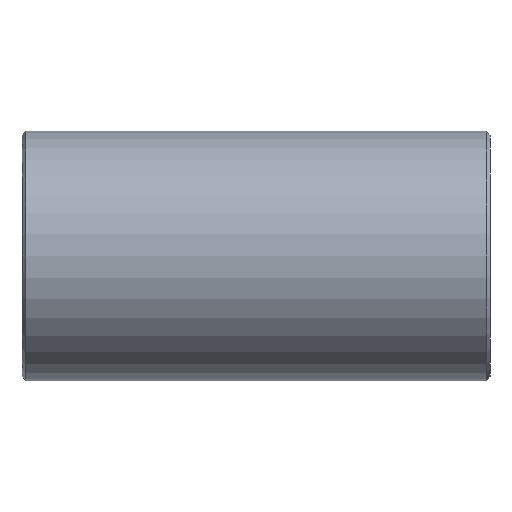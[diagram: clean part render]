
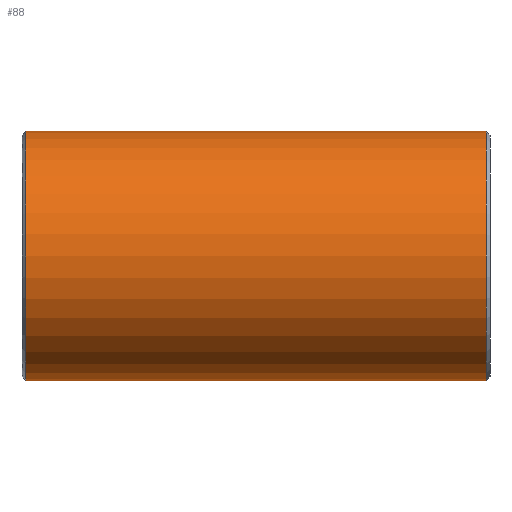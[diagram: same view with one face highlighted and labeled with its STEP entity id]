
A CAD part, left-side view. The second image highlights one B-rep face of the part: STEP entity #88.
In plain terms, the highlighted cylindrical face has radius 8 mm (diameter 16 mm), a full revolution.
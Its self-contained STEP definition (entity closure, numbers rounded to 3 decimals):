
#19=CYLINDRICAL_SURFACE('',#110,8.);
#22=FACE_OUTER_BOUND('',#28,.T.);
#28=EDGE_LOOP('',(#69,#70,#71,#72));
#36=LINE('',#159,#40);
#40=VECTOR('',#132,8.);
#43=CIRCLE('',#108,8.);
#45=CIRCLE('',#111,8.);
#49=VERTEX_POINT('',#151);
#51=VERTEX_POINT('',#157);
#55=EDGE_CURVE('',#49,#49,#43,.T.);
#58=EDGE_CURVE('',#51,#51,#45,.T.);
#59=EDGE_CURVE('',#51,#49,#36,.T.);
#69=ORIENTED_EDGE('',*,*,#58,.F.);
#70=ORIENTED_EDGE('',*,*,#59,.T.);
#71=ORIENTED_EDGE('',*,*,#55,.F.);
#72=ORIENTED_EDGE('',*,*,#59,.F.);
#88=ADVANCED_FACE('',(#22),#19,.T.);
#108=AXIS2_PLACEMENT_3D('',#152,#123,#124);
#110=AXIS2_PLACEMENT_3D('',#156,#128,#129);
#111=AXIS2_PLACEMENT_3D('',#158,#130,#131);
#123=DIRECTION('center_axis',(0.,-1.,0.));
#124=DIRECTION('ref_axis',(1.,0.,0.));
#128=DIRECTION('center_axis',(0.,1.,0.));
#129=DIRECTION('ref_axis',(1.,0.,0.));
#130=DIRECTION('center_axis',(0.,1.,0.));
#131=DIRECTION('ref_axis',(1.,0.,0.));
#132=DIRECTION('',(0.,-1.,0.));
#151=CARTESIAN_POINT('',(-8.,0.25,0.));
#152=CARTESIAN_POINT('Origin',(0.,0.25,0.));
#156=CARTESIAN_POINT('Origin',(0.,0.,0.));
#157=CARTESIAN_POINT('',(-8.,29.75,0.));
#158=CARTESIAN_POINT('Origin',(0.,29.75,0.));
#159=CARTESIAN_POINT('',(-8.,0.,0.));
